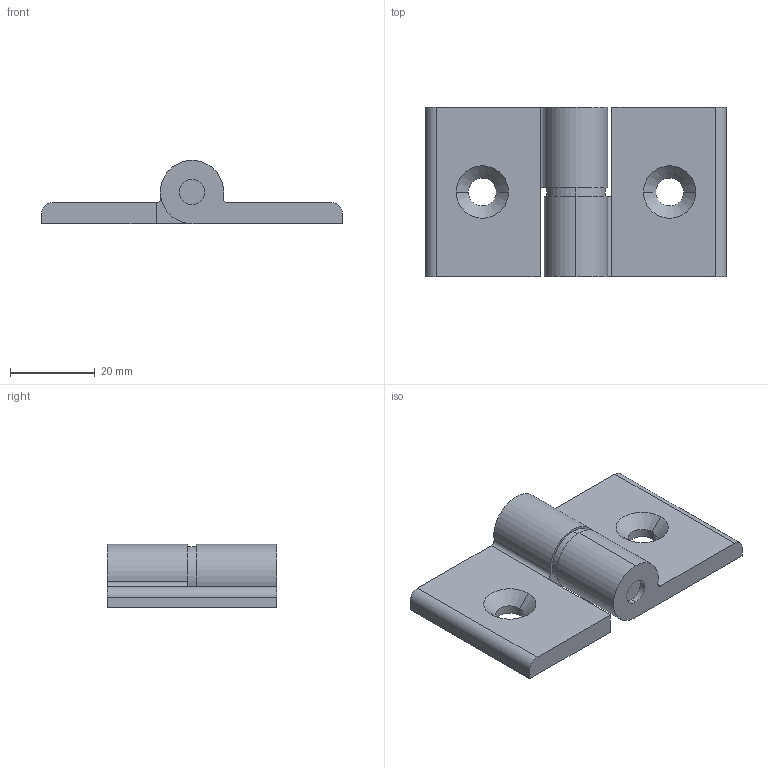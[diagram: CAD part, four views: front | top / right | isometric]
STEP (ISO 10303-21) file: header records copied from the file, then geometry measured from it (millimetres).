
FILE_DESCRIPTION (( 'STEP AP203' ), '1' );
FILE_NAME ('TCAH30R Scharnier AL30 zonder centrering (01-06-2021).STEP', '2021-06-01T06:10:03', ( '' ), ( '' ), 'SwSTEP 2.0', 'SolidWorks 2020', '' );
FILE_SCHEMA (( 'CONFIG_CONTROL_DESIGN' ));
Length unit declared in the file: millimetre
Products named in the file (1): TCAH30R Scharnier AL30 zonder centrering (01-06-2021)
Bounding box: 71 x 40 x 15 mm (x, y, z)
Volume: 17709.9 mm3; surface area: 7803.1 mm2
Topology: 1 solids, 1 shells, 37 faces, 89 edges, 58 vertices
Faces by surface type: cylinder 17, plane 16, cone 4
Entity records: 1174 total; most frequent: DIRECTION 203, CARTESIAN_POINT 185, ORIENTED_EDGE 178, EDGE_CURVE 89, AXIS2_PLACEMENT_3D 76, VERTEX_POINT 58, VECTOR 51, LINE 51
